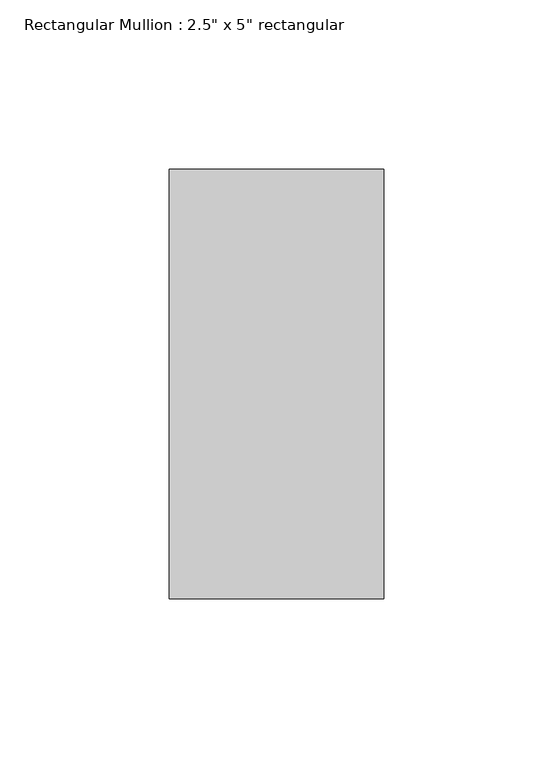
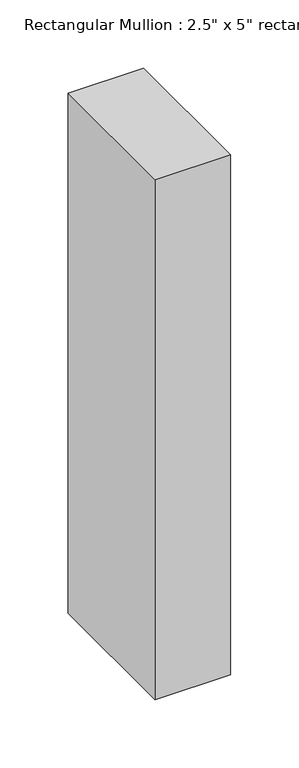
"""IFC4 building model written with IfcOpenShell, lengths in millimetres: member geometry."""

import ifcopenshell
import ifcopenshell.guid

model = None  # the IFC model being written
_history = None  # IfcOwnerHistory: only IFC2X3 demands one
_inside = {}  # id of a spatial element -> (the spatial element, [elements in it])
_under = {}  # id of a project, library or spatial element -> (it, [spatial elements below it])
_declared = {}  # id of a project -> (the project, [libraries it declares])
_typed = {}  # id of a type object -> (the type object, [elements of that type])
_made_of = {}  # id of a material, layer set ... -> (it, [elements and type objects made of it])


def new_model(schema):
    """Start an empty IFC model of exactly this schema.

    Asked for "IFC4X3", IfcOpenShell would pick the latest addendum, in which some entities
    have other attributes; the version numbers below select the first issue.
    IFC2X3 requires an IfcOwnerHistory on every rooted entity: one is made here for all.
    """
    global model, _history
    if schema == "IFC4X3":
        model = ifcopenshell.file(schema_version=(4, 3, 0, 0))
    else:
        model = ifcopenshell.file(schema=schema)
    _inside.clear()
    _under.clear()
    _declared.clear()
    _typed.clear()
    _made_of.clear()
    _history = None
    if model.schema == "IFC2X3":
        org = make("IfcOrganization", Name="unknown")
        user = make(
            "IfcPersonAndOrganization",
            ThePerson=make("IfcPerson", FamilyName="unknown"),
            TheOrganization=org,
        )
        app = make(
            "IfcApplication",
            ApplicationDeveloper=org,
            Version="unknown",
            ApplicationFullName="unknown",
            ApplicationIdentifier="unknown",
        )
        _history = make(
            "IfcOwnerHistory",
            OwningUser=user,
            OwningApplication=app,
            ChangeAction="ADDED",
            CreationDate=0,
        )
    return model


def make(cls, **values):
    """One entity of the class cls with the attributes given. An attribute that is None is left unset."""
    return model.create_entity(
        cls, **{name: value for name, value in values.items() if value is not None}
    )


def rooted(cls, **values):
    """An entity with a GlobalId (a new one), such as an element, a storey or a relation."""
    return make(cls, GlobalId=ifcopenshell.guid.new(), OwnerHistory=_history, **values)


def si_unit(unit_type, name, prefix=None):
    """IfcSIUnit, for example si_unit("LENGTHUNIT", "METRE", prefix="MILLI")."""
    return make("IfcSIUnit", UnitType=unit_type, Prefix=prefix, Name=name)


def assignment(units):
    """IfcUnitAssignment: the units of a project."""
    return None if units is None else make("IfcUnitAssignment", Units=units)


def point(xyz):
    """IfcCartesianPoint."""
    return None if xyz is None else make("IfcCartesianPoint", Coordinates=xyz)


def direction(xyz):
    """IfcDirection."""
    return None if xyz is None else make("IfcDirection", DirectionRatios=xyz)


def frame(location, z_axis=None, x_axis=None):
    """IfcAxis2Placement3D, a coordinate frame: its origin and axes. An axis left out is left unset."""
    return make(
        "IfcAxis2Placement3D",
        Location=point(location),
        Axis=direction(z_axis),
        RefDirection=direction(x_axis),
    )


def origin():
    """The frame at (0, 0, 0) with its axes left unset."""
    return frame((0.0, 0.0, 0.0))


def place(relative_to, where):
    """IfcLocalPlacement: puts the frame where relative to a parent placement (None: the world)."""
    return make(
        "IfcLocalPlacement", PlacementRelTo=relative_to, RelativePlacement=where
    )


def context(
    kind, dimensions, precision=None, world=None, true_north=None, identifier=None
):
    """IfcGeometricRepresentationContext, for example the 3D "Model" context."""
    return make(
        "IfcGeometricRepresentationContext",
        ContextIdentifier=identifier,
        ContextType=kind,
        CoordinateSpaceDimension=dimensions,
        Precision=precision,
        WorldCoordinateSystem=world,
        TrueNorth=true_north,
    )


def project(units=None, contexts=None):
    """IfcProject with its units and contexts."""
    return rooted(
        "IfcProject",
        Name="project",
        RepresentationContexts=contexts,
        UnitsInContext=assignment(units),
    )


def spatial(cls, under=None, at=None, **own):
    """A site, building, storey or space (cls), placed at a placement, below another one or the project."""
    s = rooted(cls, ObjectPlacement=at, **own)
    if under is not None:
        _under.setdefault(under.id(), (under, []))[1].append(s)
    return s


def polyline(points):
    """IfcPolyline through the points."""
    return make("IfcPolyline", Points=[point(p) for p in points])


def outline(outer, holes=None, kind="AREA"):
    """IfcArbitraryClosedProfileDef: a profile drawn as a closed curve; with holes, ...WithVoids."""
    if holes is None:
        return make("IfcArbitraryClosedProfileDef", ProfileType=kind, OuterCurve=outer)
    return make(
        "IfcArbitraryProfileDefWithVoids",
        ProfileType=kind,
        OuterCurve=outer,
        InnerCurves=holes,
    )


def extrude(swept, where, along, depth):
    """IfcExtrudedAreaSolid: the profile swept, set in the frame where, extruded along a direction by depth."""
    return make(
        "IfcExtrudedAreaSolid",
        SweptArea=swept,
        Position=where,
        ExtrudedDirection=direction(along),
        Depth=depth,
    )


def shape(context_of_items, identifier, shape_type, items):
    """IfcShapeRepresentation: the items that make up one representation, for example the "Body"."""
    return make(
        "IfcShapeRepresentation",
        ContextOfItems=context_of_items,
        RepresentationIdentifier=identifier,
        RepresentationType=shape_type,
        Items=items,
    )


def source(mapping_origin, context_of_items, identifier, shape_type, items):
    """IfcRepresentationMap: a shape defined once, which mapped items show again and again."""
    return make(
        "IfcRepresentationMap",
        MappingOrigin=mapping_origin,
        MappedRepresentation=shape(context_of_items, identifier, shape_type, items),
    )


def transform(
    local_origin,
    x_axis=None,
    y_axis=None,
    z_axis=None,
    scale=None,
    scale2=None,
    scale3=None,
    uniform=True,
):
    """IfcCartesianTransformationOperator3D, or its non-uniform kind. x_axis, y_axis, z_axis: its Axis1, 2, 3."""
    if uniform:
        return make(
            "IfcCartesianTransformationOperator3D",
            Axis1=direction(x_axis),
            Axis2=direction(y_axis),
            LocalOrigin=point(local_origin),
            Scale=scale,
            Axis3=direction(z_axis),
        )
    return make(
        "IfcCartesianTransformationOperator3DnonUniform",
        Axis1=direction(x_axis),
        Axis2=direction(y_axis),
        LocalOrigin=point(local_origin),
        Scale=scale,
        Axis3=direction(z_axis),
        Scale2=scale2,
        Scale3=scale3,
    )


def mapped(mapping_source, mapping_target):
    """IfcMappedItem: shows the shape of a source again, moved by a transform."""
    return make(
        "IfcMappedItem", MappingSource=mapping_source, MappingTarget=mapping_target
    )


def made_of(thing, what):
    """Note that an element or type object is made of a material, layer set ...; save() writes the relation."""
    if what is not None:
        _made_of.setdefault(what.id(), (what, []))[1].append(thing)
    return thing


def element(
    cls,
    number,
    at=None,
    inside=None,
    cuts=None,
    type_object=None,
    material=None,
    context=None,
    identifier="Body",
    shape_type=None,
    held_by="IfcProductDefinitionShape",
    body=None,
    shapes=None,
    **own,
):
    """One element of the class cls, such as IfcWall. Its Tag is "e" and its number.

    at: its placement. inside: the storey or other place that contains it. cuts: it is an
    opening in that element (IfcRelVoidsElement). A single representation is given by context,
    identifier, shape_type and body (its items); several are given by shapes. held_by: the class
    of the entity that holds the representations. save() writes the other relations.
    """
    e = rooted(cls, Tag="e%d" % number, ObjectPlacement=at, **own)
    if body is not None:
        shapes = [shape(context, identifier, shape_type, body)]
    if shapes is not None:
        e.Representation = make(held_by, Representations=shapes)
    if inside is not None:
        _inside.setdefault(inside.id(), (inside, []))[1].append(e)
    if cuts is not None:
        rooted(
            "IfcRelVoidsElement", RelatingBuildingElement=cuts, RelatedOpeningElement=e
        )
    if type_object is not None:
        _typed.setdefault(type_object.id(), (type_object, []))[1].append(e)
    return made_of(e, material)


def aggregate(whole, parts):
    """IfcRelAggregates: a whole, such as a stair, and the parts it consists of."""
    return rooted("IfcRelAggregates", RelatingObject=whole, RelatedObjects=parts)


def save(model, path):
    """Write the relations noted so far, then the file.

    IfcRelAggregates (storeys below a building ...), IfcRelContainedInSpatialStructure (elements
    in a storey), IfcRelDefinesByType, IfcRelAssociatesMaterial and IfcRelDeclares: one each for
    every whole, place, type object, material and project.
    """
    for whole, parts in _under.values():
        aggregate(whole, parts)
    for where, things in _inside.values():
        rooted(
            "IfcRelContainedInSpatialStructure",
            RelatedElements=things,
            RelatingStructure=where,
        )
    for kind, things in _typed.values():
        rooted("IfcRelDefinesByType", RelatedObjects=things, RelatingType=kind)
    for what, things in _made_of.values():
        rooted("IfcRelAssociatesMaterial", RelatedObjects=things, RelatingMaterial=what)
    for by, libraries in _declared.values():
        rooted("IfcRelDeclares", RelatingContext=by, RelatedDefinitions=libraries)
    model.write(path)


def member_1df11e17(model_context):
    return source(origin(), model_context, "Body", "SweptSolid", [
        extrude(outline(polyline([(31.75, 63.5), (31.75, -63.5), (-31.75, -63.5), (-31.75, 63.5), (31.75, 63.5)])), frame((0.0, 0.0, -463.55), z_axis=(0.0, 0.0, 1.0), x_axis=(1.0, 0.0, 0.0)), (0.0, 0.0, 1.0), 463.55),
    ])


if __name__ == "__main__":
    model = new_model("IFC4")
    model_context = context("Model", 3, world=origin())
    ifc_project = project(units=[si_unit("LENGTHUNIT", "METRE", prefix="MILLI")], contexts=[model_context])
    site = spatial("IfcSite", under=ifc_project)
    building = spatial("IfcBuilding", under=site)
    placement = place(None, origin())
    member_shape = member_1df11e17(model_context)
    element("IfcMember", 1, ObjectType="Rectangular Mullion : 2.5\" x 5\" rectangular", at=placement, inside=building, context=model_context, shape_type="MappedRepresentation", body=[
        mapped(member_shape, transform((0.0, 0.0, 0.0), x_axis=(1.0, 0.0, 0.0), y_axis=(0.0, 1.0, 0.0), z_axis=(0.0, 0.0, 1.0))),
    ])
    save(model, "model.ifc")
